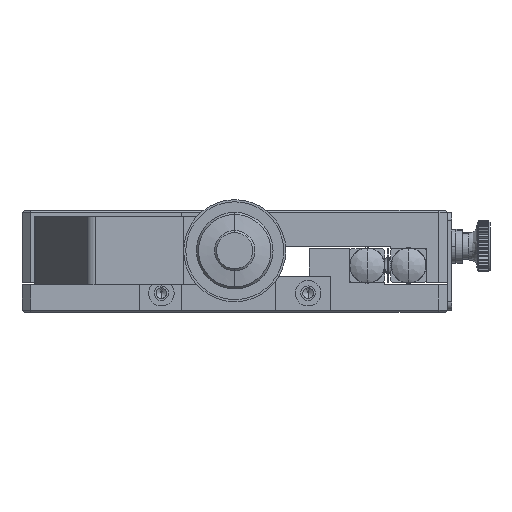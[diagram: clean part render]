
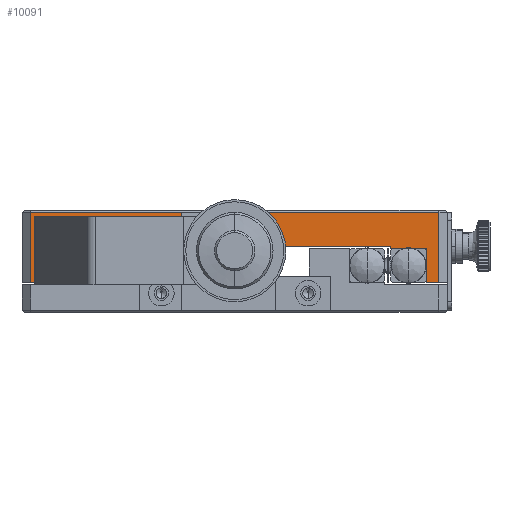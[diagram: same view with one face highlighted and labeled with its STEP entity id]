
A CAD part, front view. The second image highlights one B-rep face of the part: STEP entity #10091.
In plain terms, the highlighted planar face has unit normal (0, -1, 0) as drawn and (0, 0, -1) by its records, which use the part's own axes.
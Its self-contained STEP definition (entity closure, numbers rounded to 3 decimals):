
#758 = LINE ( 'NONE', #21077, #11133 ) ;
#836 = EDGE_CURVE ( 'NONE', #23056, #26272, #36416, .T. ) ;
#1426 = CIRCLE ( 'NONE', #22024, 2.5 ) ;
#1684 = EDGE_CURVE ( 'NONE', #30243, #4692, #29117, .T. ) ;
#1703 = VERTEX_POINT ( 'NONE', #33769 ) ;
#1733 = ORIENTED_EDGE ( 'NONE', *, *, #1684, .F. ) ;
#2321 = FACE_BOUND ( 'NONE', #20977, .T. ) ;
#2893 = ORIENTED_EDGE ( 'NONE', *, *, #3058, .T. ) ;
#3058 = EDGE_CURVE ( 'NONE', #23783, #1703, #33151, .T. ) ;
#3136 = DIRECTION ( 'NONE',  ( 0., -1., 0. ) ) ;
#3784 = CARTESIAN_POINT ( 'NONE',  ( -50., 17., -50. ) ) ;
#3813 = ORIENTED_EDGE ( 'NONE', *, *, #20998, .F. ) ;
#4692 = VERTEX_POINT ( 'NONE', #21509 ) ;
#4695 = DIRECTION ( 'NONE',  ( -1., 0., 0. ) ) ;
#4758 = DIRECTION ( 'NONE',  ( 0., 1., 0. ) ) ;
#4881 = VECTOR ( 'NONE', #26464, 1000. ) ;
#5092 = CARTESIAN_POINT ( 'NONE',  ( -48., 0.5, -50. ) ) ;
#5561 = ORIENTED_EDGE ( 'NONE', *, *, #12239, .T. ) ;
#5817 = VECTOR ( 'NONE', #37184, 1000. ) ;
#5903 = CARTESIAN_POINT ( 'NONE',  ( -50., 17., -50. ) ) ;
#6474 = EDGE_CURVE ( 'NONE', #7455, #21684, #18810, .T. ) ;
#7162 = CARTESIAN_POINT ( 'NONE',  ( -45., 17., -50. ) ) ;
#7305 = VERTEX_POINT ( 'NONE', #22698 ) ;
#7455 = VERTEX_POINT ( 'NONE', #7162 ) ;
#7562 = EDGE_CURVE ( 'NONE', #26272, #7305, #24227, .T. ) ;
#7640 = LINE ( 'NONE', #3784, #23984 ) ;
#7687 = VECTOR ( 'NONE', #4695, 1000. ) ;
#7878 = CARTESIAN_POINT ( 'NONE',  ( 48., 17., -50. ) ) ;
#8293 = LINE ( 'NONE', #11919, #29228 ) ;
#8531 = CARTESIAN_POINT ( 'NONE',  ( 0., 9.25, -50. ) ) ;
#8875 = VERTEX_POINT ( 'NONE', #24849 ) ;
#8910 = DIRECTION ( 'NONE',  ( 0., 0., -1. ) ) ;
#9639 = CARTESIAN_POINT ( 'NONE',  ( 36.7, 9., -50. ) ) ;
#9703 = DIRECTION ( 'NONE',  ( 0., 0., 1. ) ) ;
#9762 = CARTESIAN_POINT ( 'NONE',  ( -36.7, 17., -50. ) ) ;
#9888 = CARTESIAN_POINT ( 'NONE',  ( 7.5, 17., -50. ) ) ;
#10059 = LINE ( 'NONE', #18586, #23258 ) ;
#10091 = ADVANCED_FACE ( 'NONE', ( #12192, #2321 ), #21378, .F. ) ;
#10246 = DIRECTION ( 'NONE',  ( -1., 0., 0. ) ) ;
#10252 = CARTESIAN_POINT ( 'NONE',  ( 45., 9., -50. ) ) ;
#10572 = VERTEX_POINT ( 'NONE', #7878 ) ;
#10600 = VECTOR ( 'NONE', #3136, 1000. ) ;
#10722 = CARTESIAN_POINT ( 'NONE',  ( 45., 17., -50. ) ) ;
#10828 = ORIENTED_EDGE ( 'NONE', *, *, #10980, .F. ) ;
#10897 = LINE ( 'NONE', #34171, #7687 ) ;
#10980 = EDGE_CURVE ( 'NONE', #4692, #30243, #1426, .T. ) ;
#11133 = VECTOR ( 'NONE', #17920, 1000. ) ;
#11221 = CARTESIAN_POINT ( 'NONE',  ( -36.7, 8.5, -50. ) ) ;
#11259 = EDGE_CURVE ( 'NONE', #34297, #26723, #10897, .T. ) ;
#11555 = DIRECTION ( 'NONE',  ( -1., 0., 0. ) ) ;
#11919 = CARTESIAN_POINT ( 'NONE',  ( 7.5, 14.5, -50. ) ) ;
#12192 = FACE_OUTER_BOUND ( 'NONE', #16156, .T. ) ;
#12239 = EDGE_CURVE ( 'NONE', #13112, #27002, #34957, .T. ) ;
#12473 = CARTESIAN_POINT ( 'NONE',  ( -50., 17., -50. ) ) ;
#12570 = LINE ( 'NONE', #28639, #20750 ) ;
#12609 = DIRECTION ( 'NONE',  ( 1., 0., 0. ) ) ;
#12715 = AXIS2_PLACEMENT_3D ( 'NONE', #27669, #33907, #10246 ) ;
#13112 = VERTEX_POINT ( 'NONE', #11221 ) ;
#13178 = CARTESIAN_POINT ( 'NONE',  ( -48., 0., -50. ) ) ;
#14431 = LINE ( 'NONE', #9888, #5817 ) ;
#14476 = VECTOR ( 'NONE', #18525, 1000. ) ;
#14695 = VECTOR ( 'NONE', #28133, 1000. ) ;
#15062 = ORIENTED_EDGE ( 'NONE', *, *, #32435, .F. ) ;
#15696 = DIRECTION ( 'NONE',  ( 1., 0., 0. ) ) ;
#15901 = EDGE_CURVE ( 'NONE', #26723, #8875, #15996, .T. ) ;
#15996 = LINE ( 'NONE', #13178, #36457 ) ;
#16156 = EDGE_LOOP ( 'NONE', ( #35473, #36444, #15062, #24548, #19479, #3813, #5561, #30315, #21204, #23003, #2893, #17803, #24196, #22935, #17751, #24616 ) ) ;
#16569 = VERTEX_POINT ( 'NONE', #23161 ) ;
#17436 = VECTOR ( 'NONE', #20136, 1000. ) ;
#17751 = ORIENTED_EDGE ( 'NONE', *, *, #27378, .F. ) ;
#17774 = DIRECTION ( 'NONE',  ( 1., 0., 0. ) ) ;
#17803 = ORIENTED_EDGE ( 'NONE', *, *, #28862, .F. ) ;
#17920 = DIRECTION ( 'NONE',  ( 0., -1., 0. ) ) ;
#18525 = DIRECTION ( 'NONE',  ( 0., 1., 0. ) ) ;
#18586 = CARTESIAN_POINT ( 'NONE',  ( 48., 17., -50. ) ) ;
#18810 = LINE ( 'NONE', #26199, #10600 ) ;
#18921 = EDGE_CURVE ( 'NONE', #34297, #10572, #10059, .T. ) ;
#19145 = VECTOR ( 'NONE', #24981, 1000. ) ;
#19266 = LINE ( 'NONE', #37534, #17436 ) ;
#19479 = ORIENTED_EDGE ( 'NONE', *, *, #21826, .T. ) ;
#19480 = VECTOR ( 'NONE', #36871, 1000. ) ;
#20136 = DIRECTION ( 'NONE',  ( 0., -1., 0. ) ) ;
#20270 = DIRECTION ( 'NONE',  ( 1., 0., 0. ) ) ;
#20750 = VECTOR ( 'NONE', #20270, 1000. ) ;
#20977 = EDGE_LOOP ( 'NONE', ( #10828, #1733 ) ) ;
#20998 = EDGE_CURVE ( 'NONE', #13112, #25607, #28129, .T. ) ;
#21077 = CARTESIAN_POINT ( 'NONE',  ( -7.5, 17., -50. ) ) ;
#21204 = ORIENTED_EDGE ( 'NONE', *, *, #29471, .T. ) ;
#21219 = EDGE_CURVE ( 'NONE', #23783, #21526, #14431, .T. ) ;
#21378 = PLANE ( 'NONE',  #22979 ) ;
#21509 = CARTESIAN_POINT ( 'NONE',  ( -2.5, 9.25, -50. ) ) ;
#21526 = VERTEX_POINT ( 'NONE', #24317 ) ;
#21684 = VERTEX_POINT ( 'NONE', #25583 ) ;
#21826 = EDGE_CURVE ( 'NONE', #21684, #25607, #12570, .T. ) ;
#22024 = AXIS2_PLACEMENT_3D ( 'NONE', #8531, #8910, #11555 ) ;
#22698 = CARTESIAN_POINT ( 'NONE',  ( 45., 17., -50. ) ) ;
#22935 = ORIENTED_EDGE ( 'NONE', *, *, #7562, .T. ) ;
#22977 = EDGE_CURVE ( 'NONE', #16569, #27002, #758, .T. ) ;
#22979 = AXIS2_PLACEMENT_3D ( 'NONE', #12473, #9703, #12609 ) ;
#23003 = ORIENTED_EDGE ( 'NONE', *, *, #21219, .F. ) ;
#23056 = VERTEX_POINT ( 'NONE', #9639 ) ;
#23161 = CARTESIAN_POINT ( 'NONE',  ( -7.5, 14.5, -50. ) ) ;
#23258 = VECTOR ( 'NONE', #4758, 1000. ) ;
#23783 = VERTEX_POINT ( 'NONE', #34523 ) ;
#23984 = VECTOR ( 'NONE', #35896, 1000. ) ;
#24092 = CARTESIAN_POINT ( 'NONE',  ( -36.7, 9., -50. ) ) ;
#24196 = ORIENTED_EDGE ( 'NONE', *, *, #836, .T. ) ;
#24227 = LINE ( 'NONE', #10722, #14695 ) ;
#24317 = CARTESIAN_POINT ( 'NONE',  ( 7.5, 14.5, -50. ) ) ;
#24402 = CARTESIAN_POINT ( 'NONE',  ( 2.5, 9.25, -50. ) ) ;
#24548 = ORIENTED_EDGE ( 'NONE', *, *, #6474, .T. ) ;
#24616 = ORIENTED_EDGE ( 'NONE', *, *, #18921, .F. ) ;
#24849 = CARTESIAN_POINT ( 'NONE',  ( -48., 17., -50. ) ) ;
#24980 = CARTESIAN_POINT ( 'NONE',  ( -7.5, 8.5, -50. ) ) ;
#24981 = DIRECTION ( 'NONE',  ( 1., 0., 0. ) ) ;
#25583 = CARTESIAN_POINT ( 'NONE',  ( -45., 9., -50. ) ) ;
#25607 = VERTEX_POINT ( 'NONE', #24092 ) ;
#25810 = CARTESIAN_POINT ( 'NONE',  ( 45., 9., -50. ) ) ;
#26199 = CARTESIAN_POINT ( 'NONE',  ( -45., 9., -50. ) ) ;
#26272 = VERTEX_POINT ( 'NONE', #25810 ) ;
#26338 = VECTOR ( 'NONE', #15696, 1000. ) ;
#26464 = DIRECTION ( 'NONE',  ( -1., 0., 0. ) ) ;
#26723 = VERTEX_POINT ( 'NONE', #5092 ) ;
#27002 = VERTEX_POINT ( 'NONE', #24980 ) ;
#27378 = EDGE_CURVE ( 'NONE', #10572, #7305, #35760, .T. ) ;
#27669 = CARTESIAN_POINT ( 'NONE',  ( 0., 9.25, -50. ) ) ;
#28129 = LINE ( 'NONE', #9762, #14476 ) ;
#28133 = DIRECTION ( 'NONE',  ( 0., 1., 0. ) ) ;
#28249 = CARTESIAN_POINT ( 'NONE',  ( -7.5, 8.5, -50. ) ) ;
#28639 = CARTESIAN_POINT ( 'NONE',  ( -36.7, 9., -50. ) ) ;
#28862 = EDGE_CURVE ( 'NONE', #23056, #1703, #19266, .T. ) ;
#29117 = CIRCLE ( 'NONE', #12715, 2.5 ) ;
#29228 = VECTOR ( 'NONE', #17774, 1000. ) ;
#29471 = EDGE_CURVE ( 'NONE', #16569, #21526, #8293, .T. ) ;
#29502 = CARTESIAN_POINT ( 'NONE',  ( 48., 0.5, -50. ) ) ;
#30243 = VERTEX_POINT ( 'NONE', #24402 ) ;
#30315 = ORIENTED_EDGE ( 'NONE', *, *, #22977, .F. ) ;
#30420 = CARTESIAN_POINT ( 'NONE',  ( 36.7, 8.5, -50. ) ) ;
#32435 = EDGE_CURVE ( 'NONE', #7455, #8875, #7640, .T. ) ;
#33151 = LINE ( 'NONE', #30420, #26338 ) ;
#33769 = CARTESIAN_POINT ( 'NONE',  ( 36.7, 8.5, -50. ) ) ;
#33907 = DIRECTION ( 'NONE',  ( 0., 0., -1. ) ) ;
#34171 = CARTESIAN_POINT ( 'NONE',  ( 0., 0.5, -50. ) ) ;
#34297 = VERTEX_POINT ( 'NONE', #29502 ) ;
#34523 = CARTESIAN_POINT ( 'NONE',  ( 7.5, 8.5, -50. ) ) ;
#34957 = LINE ( 'NONE', #28249, #19480 ) ;
#35473 = ORIENTED_EDGE ( 'NONE', *, *, #11259, .T. ) ;
#35760 = LINE ( 'NONE', #5903, #4881 ) ;
#35896 = DIRECTION ( 'NONE',  ( -1., 0., 0. ) ) ;
#36416 = LINE ( 'NONE', #10252, #19145 ) ;
#36432 = DIRECTION ( 'NONE',  ( 0., 1., 0. ) ) ;
#36444 = ORIENTED_EDGE ( 'NONE', *, *, #15901, .T. ) ;
#36457 = VECTOR ( 'NONE', #36432, 1000. ) ;
#36871 = DIRECTION ( 'NONE',  ( 1., 0., 0. ) ) ;
#37184 = DIRECTION ( 'NONE',  ( 0., 1., 0. ) ) ;
#37534 = CARTESIAN_POINT ( 'NONE',  ( 36.7, 17., -50. ) ) ;
